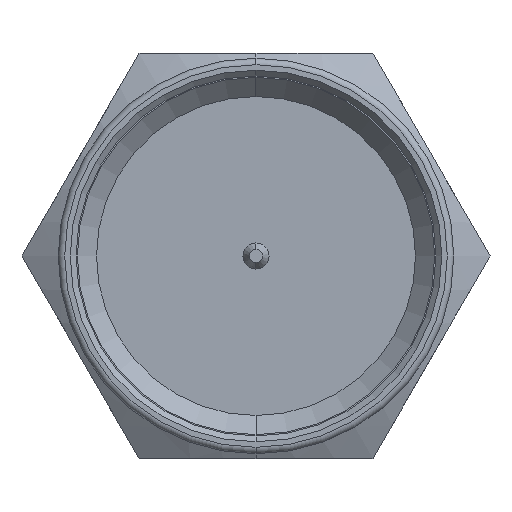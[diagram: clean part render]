
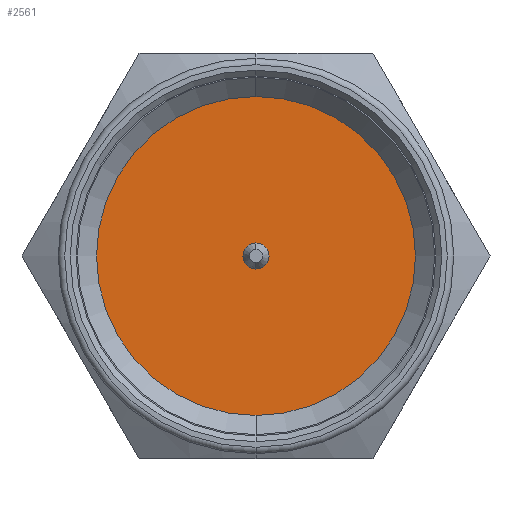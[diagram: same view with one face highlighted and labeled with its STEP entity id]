
A CAD part, left-side view. The second image highlights one B-rep face of the part: STEP entity #2561.
In plain terms, the highlighted planar face has unit normal (-1, 0, 0).
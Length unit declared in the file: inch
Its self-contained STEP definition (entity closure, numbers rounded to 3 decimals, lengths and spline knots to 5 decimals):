
#182 = DIRECTION ( 'NONE',  ( -1., 0., 0. ) ) ;
#344 = AXIS2_PLACEMENT_3D ( 'NONE', #5670, #182, #5689 ) ;
#473 = CIRCLE ( 'NONE', #4229, 0.123 ) ;
#641 = CARTESIAN_POINT ( 'NONE',  ( -0.00396, 0., -0.01005 ) ) ;
#830 = EDGE_LOOP ( 'NONE', ( #3990, #5257 ) ) ;
#1103 = VERTEX_POINT ( 'NONE', #2235 ) ;
#1292 = CARTESIAN_POINT ( 'NONE',  ( -0.00396, 0., 0. ) ) ;
#1308 = CIRCLE ( 'NONE', #344, 0.123 ) ;
#1556 = ORIENTED_EDGE ( 'NONE', *, *, #4797, .T. ) ;
#1762 = EDGE_CURVE ( 'NONE', #1103, #2838, #1308, .T. ) ;
#1830 = VERTEX_POINT ( 'NONE', #4321 ) ;
#1896 = DIRECTION ( 'NONE',  ( 0., 0., 1. ) ) ;
#2012 = DIRECTION ( 'NONE',  ( 0., 0., 1. ) ) ;
#2057 = AXIS2_PLACEMENT_3D ( 'NONE', #4132, #4646, #1896 ) ;
#2096 = CARTESIAN_POINT ( 'NONE',  ( -0.00396, 0., 0.123 ) ) ;
#2149 = DIRECTION ( 'NONE',  ( 0., 0., 1. ) ) ;
#2235 = CARTESIAN_POINT ( 'NONE',  ( -0.00396, 0., -0.123 ) ) ;
#2422 = EDGE_CURVE ( 'NONE', #2838, #1103, #473, .T. ) ;
#2487 = FACE_OUTER_BOUND ( 'NONE', #830, .T. ) ;
#2561 = ADVANCED_FACE ( 'NONE', ( #3426, #2487 ), #5026, .T. ) ;
#2787 = DIRECTION ( 'NONE',  ( 0., 0., 1. ) ) ;
#2838 = VERTEX_POINT ( 'NONE', #2096 ) ;
#3061 = AXIS2_PLACEMENT_3D ( 'NONE', #3798, #4298, #2012 ) ;
#3183 = DIRECTION ( 'NONE',  ( -1., 0., 0. ) ) ;
#3396 = ORIENTED_EDGE ( 'NONE', *, *, #3970, .T. ) ;
#3426 = FACE_BOUND ( 'NONE', #4012, .T. ) ;
#3798 = CARTESIAN_POINT ( 'NONE',  ( -0.00396, 0., 0. ) ) ;
#3970 = EDGE_CURVE ( 'NONE', #1830, #5865, #4055, .T. ) ;
#3990 = ORIENTED_EDGE ( 'NONE', *, *, #2422, .T. ) ;
#4012 = EDGE_LOOP ( 'NONE', ( #3396, #1556 ) ) ;
#4055 = CIRCLE ( 'NONE', #2057, 0.01005 ) ;
#4132 = CARTESIAN_POINT ( 'NONE',  ( -0.00396, 0., 0. ) ) ;
#4229 = AXIS2_PLACEMENT_3D ( 'NONE', #1292, #5958, #2149 ) ;
#4298 = DIRECTION ( 'NONE',  ( 1., 0., 0. ) ) ;
#4321 = CARTESIAN_POINT ( 'NONE',  ( -0.00396, 0., 0.01005 ) ) ;
#4646 = DIRECTION ( 'NONE',  ( 1., 0., 0. ) ) ;
#4797 = EDGE_CURVE ( 'NONE', #5865, #1830, #5220, .T. ) ;
#5026 = PLANE ( 'NONE',  #5509 ) ;
#5045 = CARTESIAN_POINT ( 'NONE',  ( -0.00396, 0., 0. ) ) ;
#5220 = CIRCLE ( 'NONE', #3061, 0.01005 ) ;
#5257 = ORIENTED_EDGE ( 'NONE', *, *, #1762, .T. ) ;
#5509 = AXIS2_PLACEMENT_3D ( 'NONE', #5045, #3183, #2787 ) ;
#5670 = CARTESIAN_POINT ( 'NONE',  ( -0.00396, 0., 0. ) ) ;
#5689 = DIRECTION ( 'NONE',  ( 0., 0., 1. ) ) ;
#5865 = VERTEX_POINT ( 'NONE', #641 ) ;
#5958 = DIRECTION ( 'NONE',  ( -1., 0., 0. ) ) ;
